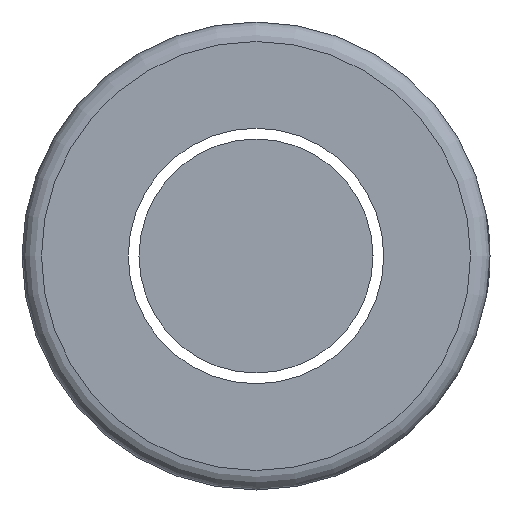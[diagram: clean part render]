
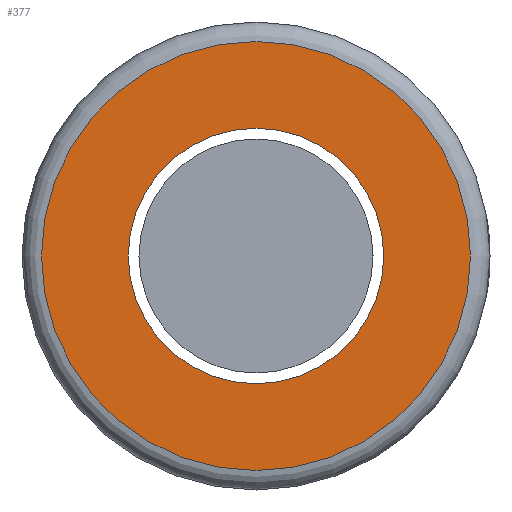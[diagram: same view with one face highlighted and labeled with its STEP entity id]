
A CAD part, left-side view. The second image highlights one B-rep face of the part: STEP entity #377.
In plain terms, the highlighted planar face has unit normal (-1, 0, 0).
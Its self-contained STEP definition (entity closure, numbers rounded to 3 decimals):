
#8 = EDGE_LOOP ( 'NONE', ( #51 ) ) ;
#43 = FACE_BOUND ( 'NONE', #8, .T. ) ;
#49 = VERTEX_POINT ( 'NONE', #291 ) ;
#51 = ORIENTED_EDGE ( 'NONE', *, *, #219, .T. ) ;
#62 = EDGE_LOOP ( 'NONE', ( #157 ) ) ;
#92 = DIRECTION ( 'NONE',  ( 0., 0., -1. ) ) ;
#94 = DIRECTION ( 'NONE',  ( -1., 0., 0. ) ) ;
#113 = EDGE_CURVE ( 'NONE', #202, #202, #398, .T. ) ;
#131 = DIRECTION ( 'NONE',  ( -1., 0., 0. ) ) ;
#157 = ORIENTED_EDGE ( 'NONE', *, *, #113, .T. ) ;
#186 = CIRCLE ( 'NONE', #264, 6.55 ) ;
#202 = VERTEX_POINT ( 'NONE', #244 ) ;
#219 = EDGE_CURVE ( 'NONE', #49, #49, #186, .T. ) ;
#244 = CARTESIAN_POINT ( 'NONE',  ( -45., 0., 11. ) ) ;
#251 = AXIS2_PLACEMENT_3D ( 'NONE', #348, #131, #437 ) ;
#264 = AXIS2_PLACEMENT_3D ( 'NONE', #486, #420, #92 ) ;
#291 = CARTESIAN_POINT ( 'NONE',  ( -45., 0., -6.55 ) ) ;
#348 = CARTESIAN_POINT ( 'NONE',  ( -45., 0., 0. ) ) ;
#355 = DIRECTION ( 'NONE',  ( 0., 0., 1. ) ) ;
#367 = PLANE ( 'NONE',  #539 ) ;
#377 = ADVANCED_FACE ( 'NONE', ( #447, #43 ), #367, .T. ) ;
#398 = CIRCLE ( 'NONE', #251, 11. ) ;
#420 = DIRECTION ( 'NONE',  ( 1., 0., 0. ) ) ;
#437 = DIRECTION ( 'NONE',  ( 0., 0., 1. ) ) ;
#447 = FACE_OUTER_BOUND ( 'NONE', #62, .T. ) ;
#486 = CARTESIAN_POINT ( 'NONE',  ( -45., 0., 0. ) ) ;
#538 = CARTESIAN_POINT ( 'NONE',  ( -45., 12.15, 0. ) ) ;
#539 = AXIS2_PLACEMENT_3D ( 'NONE', #538, #94, #355 ) ;
